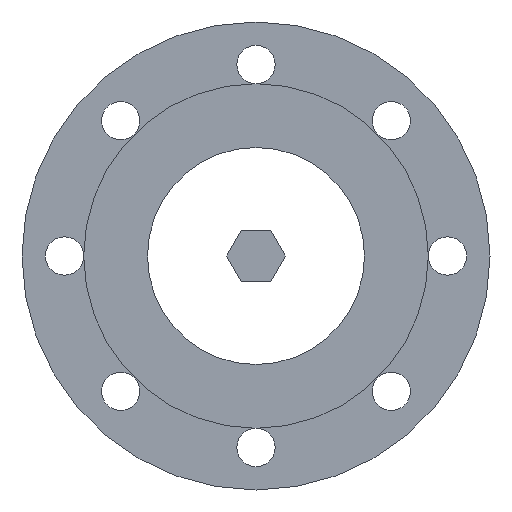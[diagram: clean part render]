
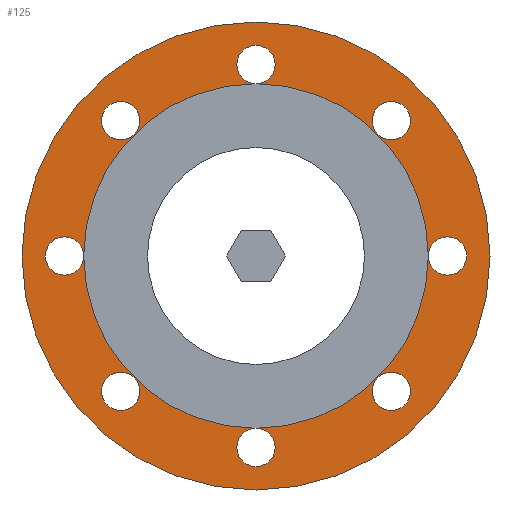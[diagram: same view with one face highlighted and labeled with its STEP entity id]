
A CAD part, front view. The second image highlights one B-rep face of the part: STEP entity #125.
In plain terms, the highlighted planar face has unit normal (0, -1, 0).
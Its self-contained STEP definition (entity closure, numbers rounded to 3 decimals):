
#125 = ADVANCED_FACE( '', ( #238, #239, #240, #241, #242, #243, #244, #245, #246, #247 ), #248, .T. );
#238 = FACE_OUTER_BOUND( '', #364, .T. );
#239 = FACE_BOUND( '', #365, .T. );
#240 = FACE_BOUND( '', #366, .T. );
#241 = FACE_BOUND( '', #367, .T. );
#242 = FACE_BOUND( '', #368, .T. );
#243 = FACE_BOUND( '', #369, .T. );
#244 = FACE_BOUND( '', #370, .T. );
#245 = FACE_BOUND( '', #371, .T. );
#246 = FACE_BOUND( '', #372, .T. );
#247 = FACE_BOUND( '', #373, .T. );
#248 = PLANE( '', #374 );
#364 = EDGE_LOOP( '', ( #498 ) );
#365 = EDGE_LOOP( '', ( #499 ) );
#366 = EDGE_LOOP( '', ( #500 ) );
#367 = EDGE_LOOP( '', ( #501 ) );
#368 = EDGE_LOOP( '', ( #502 ) );
#369 = EDGE_LOOP( '', ( #503 ) );
#370 = EDGE_LOOP( '', ( #504 ) );
#371 = EDGE_LOOP( '', ( #505 ) );
#372 = EDGE_LOOP( '', ( #506 ) );
#373 = EDGE_LOOP( '', ( #507 ) );
#374 = AXIS2_PLACEMENT_3D( '', #508, #509, #510 );
#498 = ORIENTED_EDGE( '', *, *, #667, .T. );
#499 = ORIENTED_EDGE( '', *, *, #648, .F. );
#500 = ORIENTED_EDGE( '', *, *, #668, .F. );
#501 = ORIENTED_EDGE( '', *, *, #669, .F. );
#502 = ORIENTED_EDGE( '', *, *, #670, .F. );
#503 = ORIENTED_EDGE( '', *, *, #660, .F. );
#504 = ORIENTED_EDGE( '', *, *, #671, .F. );
#505 = ORIENTED_EDGE( '', *, *, #672, .F. );
#506 = ORIENTED_EDGE( '', *, *, #673, .F. );
#507 = ORIENTED_EDGE( '', *, *, #640, .F. );
#508 = CARTESIAN_POINT( '', ( 58., 0., 0. ) );
#509 = DIRECTION( '', ( 0., -1., 0. ) );
#510 = DIRECTION( '', ( 0., 0., -1. ) );
#640 = EDGE_CURVE( '', #712, #712, #713, .T. );
#648 = EDGE_CURVE( '', #726, #726, #727, .T. );
#660 = EDGE_CURVE( '', #748, #748, #749, .T. );
#667 = EDGE_CURVE( '', #760, #760, #761, .T. );
#668 = EDGE_CURVE( '', #762, #762, #763, .T. );
#669 = EDGE_CURVE( '', #764, #764, #765, .T. );
#670 = EDGE_CURVE( '', #766, #766, #767, .T. );
#671 = EDGE_CURVE( '', #768, #768, #769, .T. );
#672 = EDGE_CURVE( '', #770, #770, #771, .T. );
#673 = EDGE_CURVE( '', #772, #772, #773, .T. );
#712 = VERTEX_POINT( '', #820 );
#713 = CIRCLE( '', #821, 58. );
#726 = VERTEX_POINT( '', #838 );
#727 = CIRCLE( '', #839, 9. );
#748 = VERTEX_POINT( '', #860 );
#749 = CIRCLE( '', #861, 9. );
#760 = VERTEX_POINT( '', #876 );
#761 = CIRCLE( '', #877, 110. );
#762 = VERTEX_POINT( '', #878 );
#763 = CIRCLE( '', #879, 9. );
#764 = VERTEX_POINT( '', #880 );
#765 = CIRCLE( '', #881, 9. );
#766 = VERTEX_POINT( '', #882 );
#767 = CIRCLE( '', #883, 9. );
#768 = VERTEX_POINT( '', #884 );
#769 = CIRCLE( '', #885, 9. );
#770 = VERTEX_POINT( '', #886 );
#771 = CIRCLE( '', #887, 9. );
#772 = VERTEX_POINT( '', #888 );
#773 = CIRCLE( '', #889, 9. );
#820 = CARTESIAN_POINT( '', ( 0., 0., -58. ) );
#821 = AXIS2_PLACEMENT_3D( '', #946, #947, #948 );
#838 = CARTESIAN_POINT( '', ( 90., 0., -9. ) );
#839 = AXIS2_PLACEMENT_3D( '', #956, #957, #958 );
#860 = CARTESIAN_POINT( '', ( -63.64, 0., 54.64 ) );
#861 = AXIS2_PLACEMENT_3D( '', #986, #987, #988 );
#876 = CARTESIAN_POINT( '', ( 0., 0., -110. ) );
#877 = AXIS2_PLACEMENT_3D( '', #993, #994, #995 );
#878 = CARTESIAN_POINT( '', ( 0., 0., -99. ) );
#879 = AXIS2_PLACEMENT_3D( '', #996, #997, #998 );
#880 = CARTESIAN_POINT( '', ( -63.64, 0., -72.64 ) );
#881 = AXIS2_PLACEMENT_3D( '', #999, #1000, #1001 );
#882 = CARTESIAN_POINT( '', ( -90., 0., -9. ) );
#883 = AXIS2_PLACEMENT_3D( '', #1002, #1003, #1004 );
#884 = CARTESIAN_POINT( '', ( 0., 0., 81. ) );
#885 = AXIS2_PLACEMENT_3D( '', #1005, #1006, #1007 );
#886 = CARTESIAN_POINT( '', ( 63.64, 0., 54.64 ) );
#887 = AXIS2_PLACEMENT_3D( '', #1008, #1009, #1010 );
#888 = CARTESIAN_POINT( '', ( 63.64, 0., -72.64 ) );
#889 = AXIS2_PLACEMENT_3D( '', #1011, #1012, #1013 );
#946 = CARTESIAN_POINT( '', ( 0., 0., 0. ) );
#947 = DIRECTION( '', ( 0., -1., 0. ) );
#948 = DIRECTION( '', ( 0., 0., -1. ) );
#956 = CARTESIAN_POINT( '', ( 90., 0., 0. ) );
#957 = DIRECTION( '', ( 0., -1., 0. ) );
#958 = DIRECTION( '', ( 0., 0., -1. ) );
#986 = CARTESIAN_POINT( '', ( -63.64, 0., 63.64 ) );
#987 = DIRECTION( '', ( 0., -1., 0. ) );
#988 = DIRECTION( '', ( 0., 0., -1. ) );
#993 = CARTESIAN_POINT( '', ( 0., 0., 0. ) );
#994 = DIRECTION( '', ( 0., -1., 0. ) );
#995 = DIRECTION( '', ( 0., 0., -1. ) );
#996 = CARTESIAN_POINT( '', ( 0., 0., -90. ) );
#997 = DIRECTION( '', ( 0., -1., 0. ) );
#998 = DIRECTION( '', ( 0., 0., -1. ) );
#999 = CARTESIAN_POINT( '', ( -63.64, 0., -63.64 ) );
#1000 = DIRECTION( '', ( 0., -1., 0. ) );
#1001 = DIRECTION( '', ( 0., 0., -1. ) );
#1002 = CARTESIAN_POINT( '', ( -90., 0., 0. ) );
#1003 = DIRECTION( '', ( 0., -1., 0. ) );
#1004 = DIRECTION( '', ( 0., 0., -1. ) );
#1005 = CARTESIAN_POINT( '', ( 0., 0., 90. ) );
#1006 = DIRECTION( '', ( 0., -1., 0. ) );
#1007 = DIRECTION( '', ( 0., 0., -1. ) );
#1008 = CARTESIAN_POINT( '', ( 63.64, 0., 63.64 ) );
#1009 = DIRECTION( '', ( 0., -1., 0. ) );
#1010 = DIRECTION( '', ( 0., 0., -1. ) );
#1011 = CARTESIAN_POINT( '', ( 63.64, 0., -63.64 ) );
#1012 = DIRECTION( '', ( 0., -1., 0. ) );
#1013 = DIRECTION( '', ( 0., 0., -1. ) );
